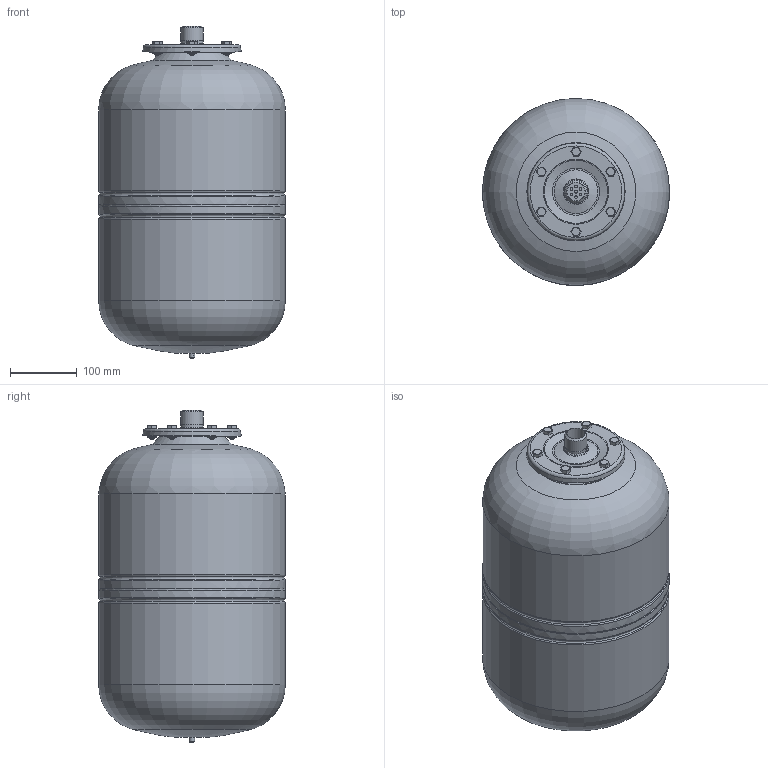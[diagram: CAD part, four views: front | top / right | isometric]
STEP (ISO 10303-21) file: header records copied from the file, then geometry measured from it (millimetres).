
FILE_DESCRIPTION(('STEP AP214'), '1');
FILE_NAME('WRV-24(ôë.140õ1'''')', '', ('UNSPECIFIED'), ('UNSPECIFIED'), 'ASCON STEP Converter 1.3', 'ASCON Math Kernel', '');
FILE_SCHEMA(('AUTOMOTIVE_DESIGN { 1 0 10303 214 3 1 1}'));
Length unit declared in the file: millimetre
Bounding box: 280.54 x 280.5 x 498 mm (x, y, z)
Volume: 25024184.9 mm3; surface area: 479252.9 mm2
Topology: 1 solids, 1 shells, 174 faces, 451 edges, 317 vertices
Faces by surface type: plane 81, cylinder 34, cone 33, torus 24, sphere 2
Full cylindrical faces by diameter (mm): 4 x7, 5.5 x1, 8 x13, 14 x6, 27.1 x1, 33.25 x1, 33.5 x1, 280 x4
Entity records: 8433 total; most frequent: CARTESIAN_POINT 2903, DIRECTION 882, ORIENTED_EDGE 742, AXIS2_PLACEMENT_3D 402, EDGE_CURVE 371, VERTEX_POINT 317, EDGE_LOOP 292, FACE_BOUND 268
